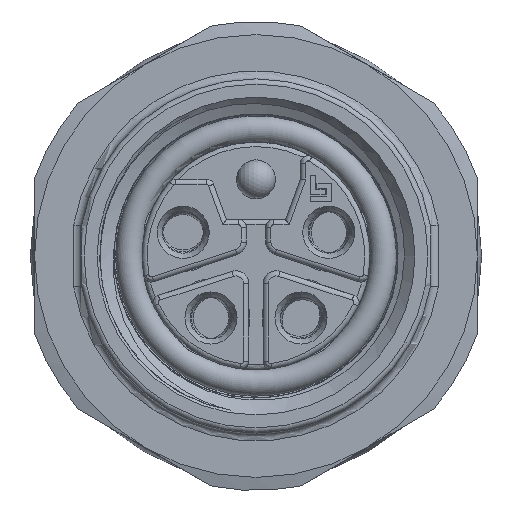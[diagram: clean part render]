
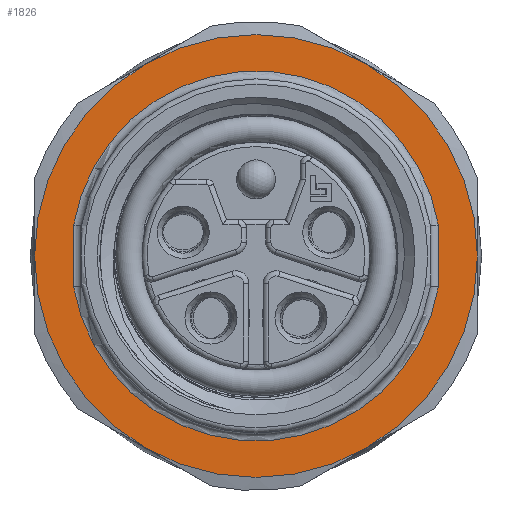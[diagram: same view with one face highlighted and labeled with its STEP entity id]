
A CAD part, left-side view. The second image highlights one B-rep face of the part: STEP entity #1826.
In plain terms, the highlighted planar face has unit normal (-1, 0, 0).
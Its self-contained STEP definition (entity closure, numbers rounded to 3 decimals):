
#211=PLANE('',#7567);
#1019=LINE('',#11493,#1428);
#1020=LINE('',#11498,#1429);
#1428=VECTOR('',#8634,1.);
#1429=VECTOR('',#8637,1.);
#1826=ADVANCED_FACE('',(#2409,#2410),#211,.F.);
#2409=FACE_BOUND('',#2576,.T.);
#2410=FACE_BOUND('',#2577,.T.);
#2576=EDGE_LOOP('',(#3306,#3307,#3308,#3309));
#2577=EDGE_LOOP('',(#3310,#3311,#3312,#3313,#3314,#3315));
#3306=ORIENTED_EDGE('',*,*,#6148,.T.);
#3307=ORIENTED_EDGE('',*,*,#6149,.T.);
#3308=ORIENTED_EDGE('',*,*,#6150,.T.);
#3309=ORIENTED_EDGE('',*,*,#6151,.T.);
#3310=ORIENTED_EDGE('',*,*,#6145,.T.);
#3311=ORIENTED_EDGE('',*,*,#6113,.T.);
#3312=ORIENTED_EDGE('',*,*,#6118,.T.);
#3313=ORIENTED_EDGE('',*,*,#6124,.T.);
#3314=ORIENTED_EDGE('',*,*,#6130,.T.);
#3315=ORIENTED_EDGE('',*,*,#6136,.T.);
#5360=VERTEX_POINT('',#11382);
#5361=VERTEX_POINT('',#11384);
#5364=VERTEX_POINT('',#11397);
#5367=VERTEX_POINT('',#11414);
#5370=VERTEX_POINT('',#11431);
#5373=VERTEX_POINT('',#11448);
#5377=VERTEX_POINT('',#11494);
#5378=VERTEX_POINT('',#11495);
#5379=VERTEX_POINT('',#11497);
#5380=VERTEX_POINT('',#11499);
#6113=EDGE_CURVE('',#5361,#5360,#7078,.T.);
#6118=EDGE_CURVE('',#5360,#5364,#7080,.T.);
#6124=EDGE_CURVE('',#5364,#5367,#7082,.T.);
#6130=EDGE_CURVE('',#5367,#5370,#7084,.T.);
#6136=EDGE_CURVE('',#5370,#5373,#7086,.T.);
#6145=EDGE_CURVE('',#5373,#5361,#7088,.T.);
#6148=EDGE_CURVE('',#5377,#5378,#1019,.T.);
#6149=EDGE_CURVE('',#5378,#5379,#7089,.T.);
#6150=EDGE_CURVE('',#5379,#5380,#1020,.T.);
#6151=EDGE_CURVE('',#5380,#5377,#7090,.T.);
#7078=CIRCLE('',#7541,8.5);
#7080=CIRCLE('',#7545,8.5);
#7082=CIRCLE('',#7549,8.5);
#7084=CIRCLE('',#7553,8.5);
#7086=CIRCLE('',#7557,8.5);
#7088=CIRCLE('',#7563,8.5);
#7089=CIRCLE('',#7565,7.1);
#7090=CIRCLE('',#7566,7.1);
#7541=AXIS2_PLACEMENT_3D('',#11383,#8576,#8577);
#7545=AXIS2_PLACEMENT_3D('',#11396,#8586,#8587);
#7549=AXIS2_PLACEMENT_3D('',#11413,#8596,#8597);
#7553=AXIS2_PLACEMENT_3D('',#11430,#8606,#8607);
#7557=AXIS2_PLACEMENT_3D('',#11447,#8616,#8617);
#7563=AXIS2_PLACEMENT_3D('',#11483,#8630,#8631);
#7565=AXIS2_PLACEMENT_3D('',#11496,#8635,#8636);
#7566=AXIS2_PLACEMENT_3D('',#11500,#8638,#8639);
#7567=AXIS2_PLACEMENT_3D('',#11501,#8640,#8641);
#8576=DIRECTION('',(-1.,0.,0.));
#8577=DIRECTION('',(0.,-1.,0.));
#8586=DIRECTION('',(-1.,0.,0.));
#8587=DIRECTION('',(0.,-1.,0.));
#8596=DIRECTION('',(-1.,0.,0.));
#8597=DIRECTION('',(0.,-1.,0.));
#8606=DIRECTION('',(-1.,0.,0.));
#8607=DIRECTION('',(0.,-1.,0.));
#8616=DIRECTION('',(-1.,0.,0.));
#8617=DIRECTION('',(0.,-1.,0.));
#8630=DIRECTION('',(-1.,0.,0.));
#8631=DIRECTION('',(0.,-1.,0.));
#8634=DIRECTION('',(0.,0.,1.));
#8635=DIRECTION('',(1.,0.,0.));
#8636=DIRECTION('',(0.,1.,0.));
#8637=DIRECTION('',(0.,0.,-1.));
#8638=DIRECTION('',(1.,0.,0.));
#8639=DIRECTION('',(0.,1.,0.));
#8640=DIRECTION('',(1.,0.,0.));
#8641=DIRECTION('',(0.,1.,0.));
#11382=CARTESIAN_POINT('',(9.5,4.25,-7.361));
#11383=CARTESIAN_POINT('',(9.5,0.,0.));
#11384=CARTESIAN_POINT('',(9.5,8.5,0.));
#11396=CARTESIAN_POINT('',(9.5,0.,0.));
#11397=CARTESIAN_POINT('',(9.5,-4.25,-7.361));
#11413=CARTESIAN_POINT('',(9.5,0.,0.));
#11414=CARTESIAN_POINT('',(9.5,-8.5,0.));
#11430=CARTESIAN_POINT('',(9.5,0.,0.));
#11431=CARTESIAN_POINT('',(9.5,-4.25,7.361));
#11447=CARTESIAN_POINT('',(9.5,0.,0.));
#11448=CARTESIAN_POINT('',(9.5,4.25,7.361));
#11483=CARTESIAN_POINT('',(9.5,0.,0.));
#11493=CARTESIAN_POINT('',(9.5,7.,1.162));
#11494=CARTESIAN_POINT('',(9.5,7.,-1.187));
#11495=CARTESIAN_POINT('',(9.5,7.,1.187));
#11496=CARTESIAN_POINT('',(9.5,0.,0.));
#11497=CARTESIAN_POINT('',(9.5,-7.,1.187));
#11498=CARTESIAN_POINT('',(9.5,-7.,-1.162));
#11499=CARTESIAN_POINT('',(9.5,-7.,-1.187));
#11500=CARTESIAN_POINT('',(9.5,0.,0.));
#11501=CARTESIAN_POINT('',(9.5,0.,8.5));
